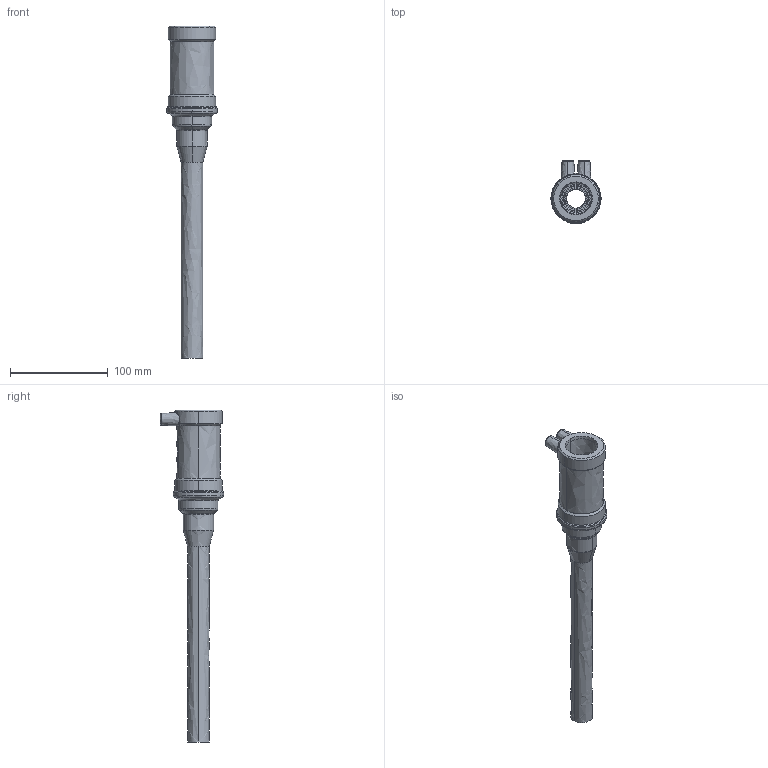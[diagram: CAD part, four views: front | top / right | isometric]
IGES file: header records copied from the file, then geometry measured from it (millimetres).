
Start section:  PTC IGES file: uflg_d32_dn20_01.igs
Global section: file name: uflg_d32_dn20_01.igs; native system: Pro/ENGINEER by Parametric Technology Corporation; preprocessor: 2011490; author: mtunjic; organization: Unknown; date: 20130909.151802; units: millimetre
Bounding box: 51.5 x 64.65 x 339.5 mm (x, y, z)
Surface area: 64249.5 mm2 (no closed solid volume)
Topology: 0 solids, 0 shells, 245 faces, 1216 edges, 1216 vertices
Faces by surface type: bspline 245
